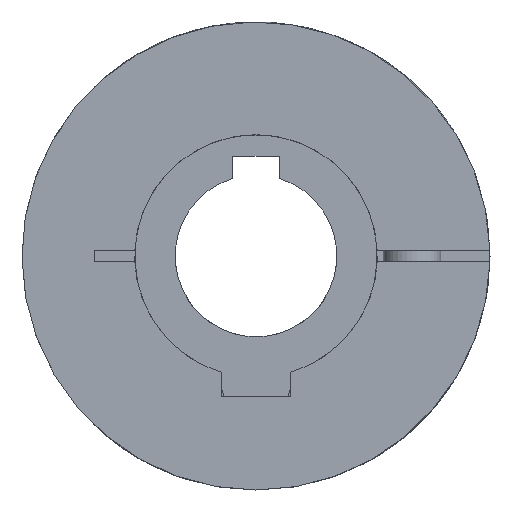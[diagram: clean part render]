
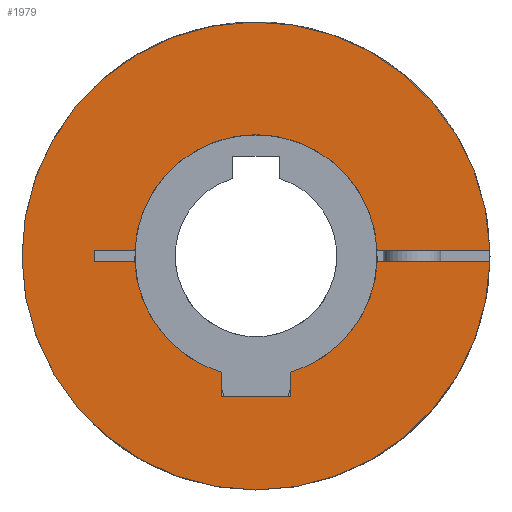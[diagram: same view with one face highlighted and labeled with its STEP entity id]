
A CAD part, left-side view. The second image highlights one B-rep face of the part: STEP entity #1979.
In plain terms, the highlighted planar face has unit normal (-1, 0, 0).
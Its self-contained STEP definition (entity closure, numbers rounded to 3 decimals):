
#32=PLANE('',#2251);
#214=FACE_OUTER_BOUND('',#334,.T.);
#334=EDGE_LOOP('',(#1492,#1493,#1494,#1495,#1496,#1497,#1498,#1499,#1500,
#1501,#1502,#1503,#1504));
#465=LINE('',#3417,#584);
#468=LINE('',#3423,#587);
#469=LINE('',#3425,#588);
#471=LINE('',#3429,#590);
#474=LINE('',#3434,#593);
#476=LINE('',#3437,#595);
#477=LINE('',#3439,#596);
#478=LINE('',#3440,#597);
#584=VECTOR('',#2647,1.);
#587=VECTOR('',#2652,1.);
#588=VECTOR('',#2655,1.);
#590=VECTOR('',#2659,21.072);
#593=VECTOR('',#2664,33.559);
#595=VECTOR('',#2668,33.559);
#596=VECTOR('',#2669,21.072);
#597=VECTOR('',#2670,2.);
#750=CIRCLE('',#2224,40.5);
#752=CIRCLE('',#2226,40.5);
#761=CIRCLE('',#2239,21.);
#764=CIRCLE('',#2243,21.);
#766=CIRCLE('',#2245,21.);
#901=VERTEX_POINT('',#3311);
#902=VERTEX_POINT('',#3312);
#904=VERTEX_POINT('',#3317);
#916=VERTEX_POINT('',#3387);
#917=VERTEX_POINT('',#3388);
#922=VERTEX_POINT('',#3399);
#923=VERTEX_POINT('',#3401);
#926=VERTEX_POINT('',#3407);
#927=VERTEX_POINT('',#3409);
#929=VERTEX_POINT('',#3415);
#931=VERTEX_POINT('',#3421);
#932=VERTEX_POINT('',#3428);
#934=VERTEX_POINT('',#3438);
#1120=EDGE_CURVE('',#901,#902,#750,.T.);
#1123=EDGE_CURVE('',#902,#904,#752,.T.);
#1139=EDGE_CURVE('',#916,#917,#761,.T.);
#1145=EDGE_CURVE('',#923,#922,#764,.T.);
#1149=EDGE_CURVE('',#927,#926,#766,.T.);
#1153=EDGE_CURVE('',#926,#929,#465,.T.);
#1156=EDGE_CURVE('',#929,#931,#468,.T.);
#1157=EDGE_CURVE('',#931,#923,#469,.T.);
#1159=EDGE_CURVE('',#932,#916,#471,.T.);
#1162=EDGE_CURVE('',#901,#927,#474,.T.);
#1164=EDGE_CURVE('',#917,#904,#476,.T.);
#1165=EDGE_CURVE('',#934,#922,#477,.T.);
#1166=EDGE_CURVE('',#932,#934,#478,.T.);
#1492=ORIENTED_EDGE('',*,*,#1139,.T.);
#1493=ORIENTED_EDGE('',*,*,#1164,.T.);
#1494=ORIENTED_EDGE('',*,*,#1123,.F.);
#1495=ORIENTED_EDGE('',*,*,#1120,.F.);
#1496=ORIENTED_EDGE('',*,*,#1162,.T.);
#1497=ORIENTED_EDGE('',*,*,#1149,.T.);
#1498=ORIENTED_EDGE('',*,*,#1153,.T.);
#1499=ORIENTED_EDGE('',*,*,#1156,.T.);
#1500=ORIENTED_EDGE('',*,*,#1157,.T.);
#1501=ORIENTED_EDGE('',*,*,#1145,.T.);
#1502=ORIENTED_EDGE('',*,*,#1165,.F.);
#1503=ORIENTED_EDGE('',*,*,#1166,.F.);
#1504=ORIENTED_EDGE('',*,*,#1159,.T.);
#1979=ADVANCED_FACE('',(#214),#32,.T.);
#2224=AXIS2_PLACEMENT_3D('',#3313,#2587,#2588);
#2226=AXIS2_PLACEMENT_3D('',#3318,#2592,#2593);
#2239=AXIS2_PLACEMENT_3D('',#3389,#2623,#2624);
#2243=AXIS2_PLACEMENT_3D('',#3402,#2634,#2635);
#2245=AXIS2_PLACEMENT_3D('',#3410,#2640,#2641);
#2251=AXIS2_PLACEMENT_3D('',#3436,#2666,#2667);
#2587=DIRECTION('center_axis',(1.,0.,0.));
#2588=DIRECTION('ref_axis',(0.,0.,1.));
#2592=DIRECTION('center_axis',(1.,0.,0.));
#2593=DIRECTION('ref_axis',(0.,0.,1.));
#2623=DIRECTION('center_axis',(1.,0.,0.));
#2624=DIRECTION('ref_axis',(0.,0.,-1.));
#2634=DIRECTION('center_axis',(1.,0.,0.));
#2635=DIRECTION('ref_axis',(0.,0.,-1.));
#2640=DIRECTION('center_axis',(1.,0.,0.));
#2641=DIRECTION('ref_axis',(0.,0.,-1.));
#2647=DIRECTION('',(0.,0.,-1.));
#2652=DIRECTION('',(0.,1.,0.));
#2655=DIRECTION('',(0.,0.,1.));
#2659=DIRECTION('',(0.,-1.,0.));
#2664=DIRECTION('',(0.,1.,0.));
#2666=DIRECTION('center_axis',(-1.,0.,0.));
#2667=DIRECTION('ref_axis',(0.,-1.,0.));
#2668=DIRECTION('',(0.,-1.,0.));
#2669=DIRECTION('',(0.,-1.,0.));
#2670=DIRECTION('',(0.,0.,-1.));
#3311=CARTESIAN_POINT('',(0.,-40.488,-1.));
#3312=CARTESIAN_POINT('',(0.,0.,-40.5));
#3313=CARTESIAN_POINT('Origin',(0.,0.,0.));
#3317=CARTESIAN_POINT('',(0.,-40.488,1.));
#3318=CARTESIAN_POINT('Origin',(0.,0.,0.));
#3387=CARTESIAN_POINT('',(0.,20.976,1.));
#3388=CARTESIAN_POINT('',(0.,-20.976,1.));
#3389=CARTESIAN_POINT('Origin',(0.,0.,0.));
#3399=CARTESIAN_POINT('',(0.,20.976,-1.));
#3401=CARTESIAN_POINT('',(0.,6.,-20.125));
#3402=CARTESIAN_POINT('Origin',(0.,0.,0.));
#3407=CARTESIAN_POINT('',(0.,-6.,-20.125));
#3409=CARTESIAN_POINT('',(0.,-20.976,-1.));
#3410=CARTESIAN_POINT('Origin',(0.,0.,0.));
#3415=CARTESIAN_POINT('',(0.,-6.,-24.3));
#3417=CARTESIAN_POINT('',(0.,-6.,-6.075));
#3421=CARTESIAN_POINT('',(0.,6.,-24.3));
#3423=CARTESIAN_POINT('',(0.,0.,-24.3));
#3425=CARTESIAN_POINT('',(0.,6.,-6.075));
#3428=CARTESIAN_POINT('',(0.,28.,1.));
#3429=CARTESIAN_POINT('',(0.,28.,1.));
#3434=CARTESIAN_POINT('',(0.,-40.488,-1.));
#3436=CARTESIAN_POINT('Origin',(0.,0.,0.));
#3437=CARTESIAN_POINT('',(0.,-6.928,1.));
#3438=CARTESIAN_POINT('',(0.,28.,-1.));
#3439=CARTESIAN_POINT('',(0.,28.,-1.));
#3440=CARTESIAN_POINT('',(0.,28.,1.));
